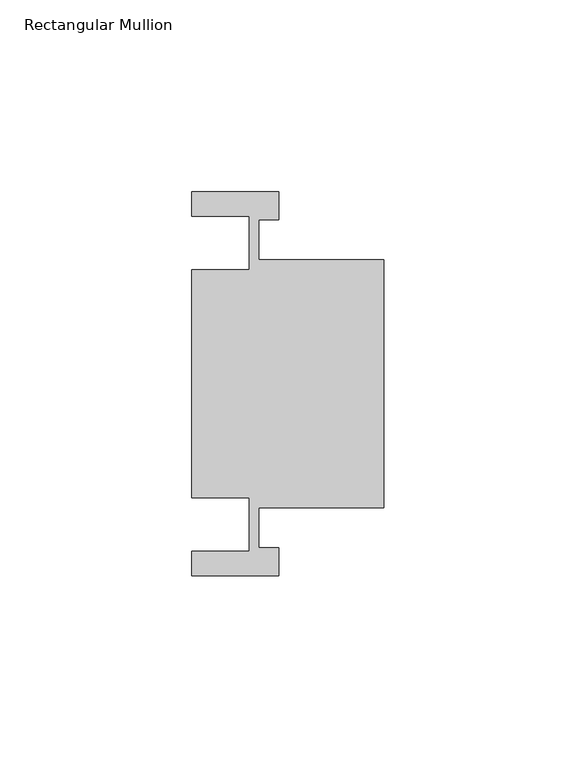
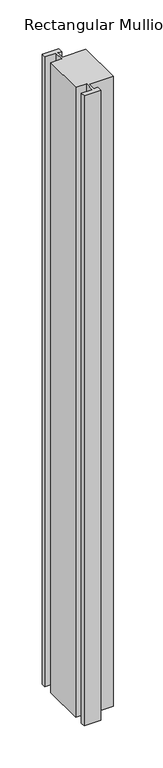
"""IFC4 building model written with IfcOpenShell, lengths in millimetres: member geometry, Rectangular Mullion : Trim-Horizontal-Teknion-Focus-FWDC."""

from ifc_helpers import new_model, si_unit, frame, origin, place, context, project, spatial, polyline, outline, extrude, source, transform, mapped, element, save


def rectangular_mullion_f7915584(model_context):
    return source(origin(), model_context, "Body", "SweptSolid", [
        extrude(outline(polyline([(-27.399989, 49.9999985), (-27.399989, 42.725), (-32.499989, 42.725), (-32.499989, 32.3000006), (0.0, 32.3000006), (0.0, -32.3000006), (-32.499989, -32.3000006), (-32.499989, -42.725), (-27.399989, -42.725), (-27.399989, -49.9999985), (-49.9999974, -49.9999985), (-49.9999974, -43.6999985), (-34.999989, -43.6999985), (-34.999989, -29.6999985), (-49.9999974, -29.6999985), (-49.9999974, 29.6999985), (-34.999989, 29.6999985), (-34.999989, 43.6999985), (-49.9999974, 43.6999985), (-49.9999974, 49.9999985), (-27.399989, 49.9999985)])), frame((0.0, 0.0, -914.4), z_axis=(0.0, 0.0, 1.0), x_axis=(1.0, 0.0, 0.0)), (0.0, 0.0, 1.0), 914.4),
    ])


if __name__ == "__main__":
    model = new_model("IFC4")
    model_context = context("Model", 3, world=origin())
    ifc_project = project(units=[si_unit("LENGTHUNIT", "METRE", prefix="MILLI")], contexts=[model_context])
    site = spatial("IfcSite", under=ifc_project)
    building = spatial("IfcBuilding", under=site)
    placement = place(None, origin())
    rectangular_mullion_shape = rectangular_mullion_f7915584(model_context)
    element("IfcMember", 1, ObjectType="Rectangular Mullion : Trim-Horizontal-Teknion-Focus-FWDC", at=placement, inside=building, context=model_context, shape_type="MappedRepresentation", body=[
        mapped(rectangular_mullion_shape, transform((0.0, 0.0, 0.0), x_axis=(1.0, 0.0, 0.0), y_axis=(0.0, 1.0, 0.0), z_axis=(0.0, 0.0, 1.0))),
    ])
    save(model, "model.ifc")
